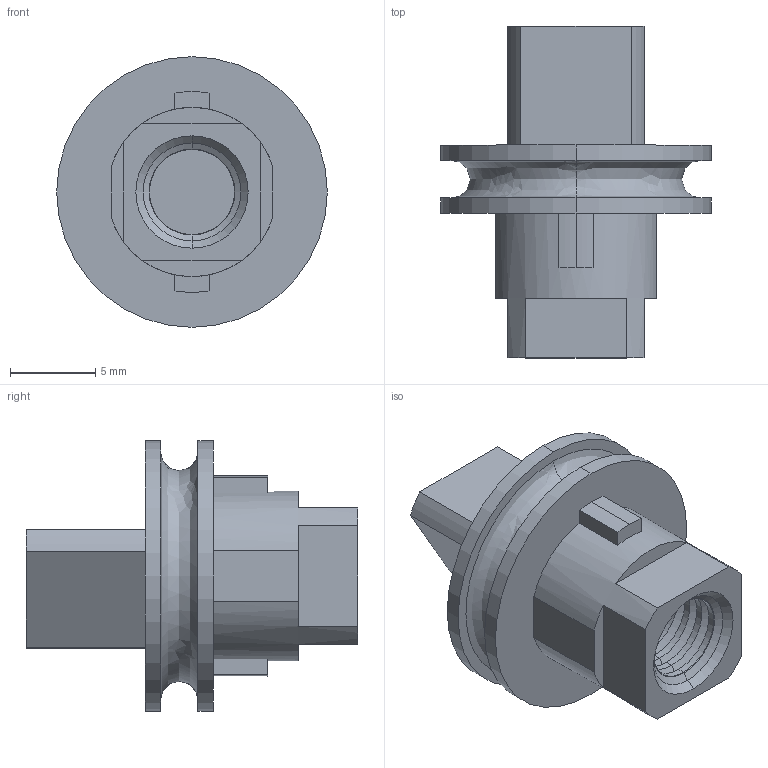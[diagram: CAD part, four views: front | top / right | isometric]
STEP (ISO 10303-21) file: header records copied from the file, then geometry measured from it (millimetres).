
FILE_DESCRIPTION (( 'STEP AP203' ), '1' );
FILE_NAME ('LI526.STEP', '2018-01-30T12:39:56', ( '' ), ( '' ), 'SwSTEP 2.0', 'SolidWorks 2017', '' );
FILE_SCHEMA (( 'CONFIG_CONTROL_DESIGN' ));
Length unit declared in the file: millimetre
Products named in the file (3): Insert_221312-12IB_Industrilas_221312-12IB_Industrilas; LI526
Assembly tree (1 placements, depth 2):
  LI526
    Insert_221312-12IB_Industrilas_221312-12IB_Industrilas
  Insert_221312-12IB_Industrilas_221312-12IB_Industrilas
Bounding box: 15.9 x 19.5 x 15.9 mm (x, y, z)
Volume: 1279.1 mm3; surface area: 1392.6 mm2
Topology: 1 solids, 1 shells, 106 faces, 243 edges, 144 vertices
Faces by surface type: cone 44, cylinder 34, plane 26, bspline 2
Entity records: 3441 total; most frequent: CARTESIAN_POINT 712, DIRECTION 573, ORIENTED_EDGE 486, EDGE_CURVE 243, AXIS2_PLACEMENT_3D 225, VERTEX_POINT 144, LINE 123, VECTOR 123
